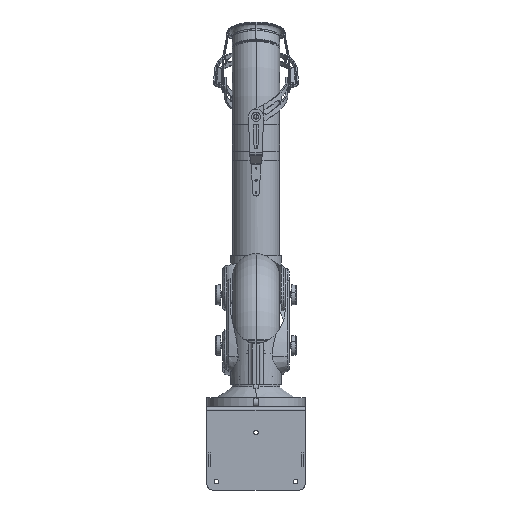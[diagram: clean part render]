
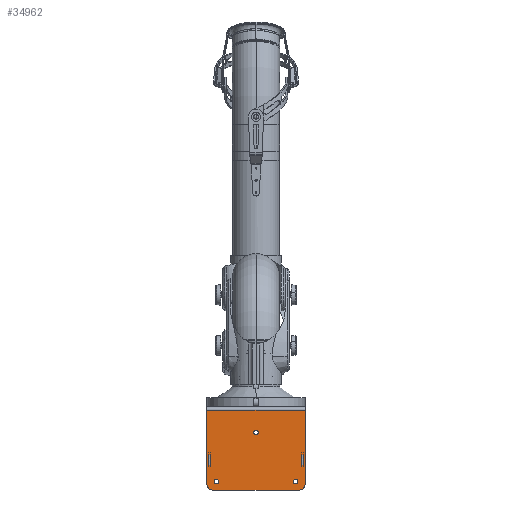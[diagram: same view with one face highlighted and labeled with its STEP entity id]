
A CAD part, front view. The second image highlights one B-rep face of the part: STEP entity #34962.
In plain terms, the highlighted planar face has unit normal (0, -1, 0).
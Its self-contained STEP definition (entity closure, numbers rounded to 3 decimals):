
#34103=CARTESIAN_POINT('',(-105.,0.,-198.));
#34104=DIRECTION('',(0.,1.,0.));
#34105=DIRECTION('',(-1.,0.,0.));
#34106=AXIS2_PLACEMENT_3D('',#34103,#34104,#34105);
#34108=CARTESIAN_POINT('',(-105.,0.,-198.));
#34109=DIRECTION('',(0.,1.,0.));
#34110=DIRECTION('',(1.,0.,0.));
#34111=AXIS2_PLACEMENT_3D('',#34108,#34109,#34110);
#34113=CARTESIAN_POINT('',(105.,0.,-198.));
#34114=DIRECTION('',(0.,1.,0.));
#34115=DIRECTION('',(-1.,0.,0.));
#34116=AXIS2_PLACEMENT_3D('',#34113,#34114,#34115);
#34118=CARTESIAN_POINT('',(105.,0.,-198.));
#34119=DIRECTION('',(0.,1.,0.));
#34120=DIRECTION('',(1.,0.,0.));
#34121=AXIS2_PLACEMENT_3D('',#34118,#34119,#34120);
#34123=CARTESIAN_POINT('',(0.,0.,-68.));
#34124=DIRECTION('',(0.,1.,0.));
#34125=DIRECTION('',(-1.,0.,0.));
#34126=AXIS2_PLACEMENT_3D('',#34123,#34124,#34125);
#34128=CARTESIAN_POINT('',(0.,0.,-68.));
#34129=DIRECTION('',(0.,1.,0.));
#34130=DIRECTION('',(1.,0.,0.));
#34131=AXIS2_PLACEMENT_3D('',#34128,#34129,#34130);
#34133=CARTESIAN_POINT('',(115.,0.,-205.));
#34134=DIRECTION('',(0.,-1.,0.));
#34135=DIRECTION('',(0.,0.,-1.));
#34136=AXIS2_PLACEMENT_3D('',#34133,#34134,#34135);
#34138=CARTESIAN_POINT('',(-115.,0.,-205.));
#34139=DIRECTION('',(0.,-1.,0.));
#34140=DIRECTION('',(-1.,0.,0.));
#34141=AXIS2_PLACEMENT_3D('',#34138,#34139,#34140);
#34143=DIRECTION('',(0.,0.,-1.));
#34144=VECTOR('',#34143,197.);
#34145=CARTESIAN_POINT('',(-130.,0.,-8.));
#34146=LINE('',#34145,#34144);
#34147=DIRECTION('',(0.,0.,-1.));
#34148=VECTOR('',#34147,197.);
#34149=CARTESIAN_POINT('',(130.,0.,-8.));
#34150=LINE('',#34149,#34148);
#34151=DIRECTION('',(-1.,0.,0.));
#34152=VECTOR('',#34151,4.2);
#34153=CARTESIAN_POINT('',(125.1,0.,-154.));
#34154=LINE('',#34153,#34152);
#34155=DIRECTION('',(0.,0.,-1.));
#34156=VECTOR('',#34155,28.);
#34157=CARTESIAN_POINT('',(125.1,0.,-126.));
#34158=LINE('',#34157,#34156);
#34159=DIRECTION('',(1.,0.,0.));
#34160=VECTOR('',#34159,4.2);
#34161=CARTESIAN_POINT('',(120.9,0.,-126.));
#34162=LINE('',#34161,#34160);
#34163=DIRECTION('',(0.,0.,1.));
#34164=VECTOR('',#34163,28.);
#34165=CARTESIAN_POINT('',(120.9,0.,-154.));
#34166=LINE('',#34165,#34164);
#34167=DIRECTION('',(1.,0.,0.));
#34168=VECTOR('',#34167,4.2);
#34169=CARTESIAN_POINT('',(-125.1,0.,-154.));
#34170=LINE('',#34169,#34168);
#34171=DIRECTION('',(0.,0.,1.));
#34172=VECTOR('',#34171,28.);
#34173=CARTESIAN_POINT('',(-120.9,0.,-154.));
#34174=LINE('',#34173,#34172);
#34175=DIRECTION('',(-1.,0.,0.));
#34176=VECTOR('',#34175,4.2);
#34177=CARTESIAN_POINT('',(-120.9,0.,-126.));
#34178=LINE('',#34177,#34176);
#34179=DIRECTION('',(0.,0.,-1.));
#34180=VECTOR('',#34179,28.);
#34181=CARTESIAN_POINT('',(-125.1,0.,-126.));
#34182=LINE('',#34181,#34180);
#34313=DIRECTION('',(1.,0.,0.));
#34314=VECTOR('',#34313,260.);
#34315=CARTESIAN_POINT('',(-130.,0.,-8.));
#34316=LINE('',#34315,#34314);
#34337=DIRECTION('',(1.,0.,0.));
#34338=VECTOR('',#34337,230.);
#34339=CARTESIAN_POINT('',(-115.,0.,-220.));
#34340=LINE('',#34339,#34338);
#34737=CARTESIAN_POINT('',(-130.,0.,-8.));
#34738=VERTEX_POINT('',#34737);
#34739=CARTESIAN_POINT('',(130.,0.,-8.));
#34740=VERTEX_POINT('',#34739);
#34753=CARTESIAN_POINT('',(-111.,0.,-198.));
#34754=CARTESIAN_POINT('',(-99.,0.,-198.));
#34755=VERTEX_POINT('',#34753);
#34756=VERTEX_POINT('',#34754);
#34757=CARTESIAN_POINT('',(99.,0.,-198.));
#34758=CARTESIAN_POINT('',(111.,0.,-198.));
#34759=VERTEX_POINT('',#34757);
#34760=VERTEX_POINT('',#34758);
#34761=CARTESIAN_POINT('',(-6.,0.,-68.));
#34762=CARTESIAN_POINT('',(6.,0.,-68.));
#34763=VERTEX_POINT('',#34761);
#34764=VERTEX_POINT('',#34762);
#34825=CARTESIAN_POINT('',(115.,0.,-220.));
#34826=CARTESIAN_POINT('',(130.,0.,-205.));
#34827=VERTEX_POINT('',#34825);
#34828=VERTEX_POINT('',#34826);
#34833=CARTESIAN_POINT('',(-130.,0.,-205.));
#34834=CARTESIAN_POINT('',(-115.,0.,-220.));
#34835=VERTEX_POINT('',#34833);
#34836=VERTEX_POINT('',#34834);
#34841=CARTESIAN_POINT('',(125.1,0.,-154.));
#34842=CARTESIAN_POINT('',(120.9,0.,-154.));
#34843=VERTEX_POINT('',#34841);
#34844=VERTEX_POINT('',#34842);
#34845=CARTESIAN_POINT('',(120.9,0.,-126.));
#34846=VERTEX_POINT('',#34845);
#34847=CARTESIAN_POINT('',(125.1,0.,-126.));
#34848=VERTEX_POINT('',#34847);
#34857=CARTESIAN_POINT('',(-125.1,0.,-154.));
#34858=CARTESIAN_POINT('',(-120.9,0.,-154.));
#34859=VERTEX_POINT('',#34857);
#34860=VERTEX_POINT('',#34858);
#34861=CARTESIAN_POINT('',(-120.9,0.,-126.));
#34862=VERTEX_POINT('',#34861);
#34863=CARTESIAN_POINT('',(-125.1,0.,-126.));
#34864=VERTEX_POINT('',#34863);
#34905=CARTESIAN_POINT('',(-175.,0.,0.));
#34906=DIRECTION('',(0.,-1.,0.));
#34907=DIRECTION('',(0.,0.,-1.));
#34908=AXIS2_PLACEMENT_3D('',#34905,#34906,#34907);
#34909=PLANE('',#34908);
#34911=ORIENTED_EDGE('',*,*,#34910,.F.);
#34913=ORIENTED_EDGE('',*,*,#34912,.F.);
#34915=ORIENTED_EDGE('',*,*,#34914,.F.);
#34917=ORIENTED_EDGE('',*,*,#34916,.F.);
#34919=ORIENTED_EDGE('',*,*,#34918,.T.);
#34921=ORIENTED_EDGE('',*,*,#34920,.T.);
#34922=EDGE_LOOP('',(#34911,#34913,#34915,#34917,#34919,#34921));
#34923=FACE_OUTER_BOUND('',#34922,.F.);
#34925=ORIENTED_EDGE('',*,*,#34924,.F.);
#34927=ORIENTED_EDGE('',*,*,#34926,.F.);
#34928=EDGE_LOOP('',(#34925,#34927));
#34929=FACE_BOUND('',#34928,.F.);
#34931=ORIENTED_EDGE('',*,*,#34930,.F.);
#34933=ORIENTED_EDGE('',*,*,#34932,.F.);
#34934=EDGE_LOOP('',(#34931,#34933));
#34935=FACE_BOUND('',#34934,.F.);
#34937=ORIENTED_EDGE('',*,*,#34936,.F.);
#34939=ORIENTED_EDGE('',*,*,#34938,.F.);
#34940=EDGE_LOOP('',(#34937,#34939));
#34941=FACE_BOUND('',#34940,.F.);
#34943=ORIENTED_EDGE('',*,*,#34942,.F.);
#34945=ORIENTED_EDGE('',*,*,#34944,.F.);
#34947=ORIENTED_EDGE('',*,*,#34946,.F.);
#34949=ORIENTED_EDGE('',*,*,#34948,.F.);
#34950=EDGE_LOOP('',(#34943,#34945,#34947,#34949));
#34951=FACE_BOUND('',#34950,.F.);
#34953=ORIENTED_EDGE('',*,*,#34952,.T.);
#34955=ORIENTED_EDGE('',*,*,#34954,.T.);
#34957=ORIENTED_EDGE('',*,*,#34956,.T.);
#34959=ORIENTED_EDGE('',*,*,#34958,.T.);
#34960=EDGE_LOOP('',(#34953,#34955,#34957,#34959));
#34961=FACE_BOUND('',#34960,.F.);
#34107=CIRCLE('',#34106,6.);
#34112=CIRCLE('',#34111,6.);
#34117=CIRCLE('',#34116,6.);
#34122=CIRCLE('',#34121,6.);
#34127=CIRCLE('',#34126,6.);
#34132=CIRCLE('',#34131,6.);
#34137=CIRCLE('',#34136,15.);
#34142=CIRCLE('',#34141,15.);
#34910=EDGE_CURVE('',#34827,#34828,#34137,.T.);
#34912=EDGE_CURVE('',#34836,#34827,#34340,.T.);
#34914=EDGE_CURVE('',#34835,#34836,#34142,.T.);
#34916=EDGE_CURVE('',#34738,#34835,#34146,.T.);
#34918=EDGE_CURVE('',#34738,#34740,#34316,.T.);
#34920=EDGE_CURVE('',#34740,#34828,#34150,.T.);
#34924=EDGE_CURVE('',#34759,#34760,#34117,.T.);
#34926=EDGE_CURVE('',#34760,#34759,#34122,.T.);
#34930=EDGE_CURVE('',#34763,#34764,#34127,.T.);
#34932=EDGE_CURVE('',#34764,#34763,#34132,.T.);
#34936=EDGE_CURVE('',#34755,#34756,#34107,.T.);
#34938=EDGE_CURVE('',#34756,#34755,#34112,.T.);
#34942=EDGE_CURVE('',#34843,#34844,#34154,.T.);
#34944=EDGE_CURVE('',#34848,#34843,#34158,.T.);
#34946=EDGE_CURVE('',#34846,#34848,#34162,.T.);
#34948=EDGE_CURVE('',#34844,#34846,#34166,.T.);
#34952=EDGE_CURVE('',#34859,#34860,#34170,.T.);
#34954=EDGE_CURVE('',#34860,#34862,#34174,.T.);
#34956=EDGE_CURVE('',#34862,#34864,#34178,.T.);
#34958=EDGE_CURVE('',#34864,#34859,#34182,.T.);
#34962=ADVANCED_FACE('',(#34923,#34929,#34935,#34941,#34951,#34961),#34909,.T.);
